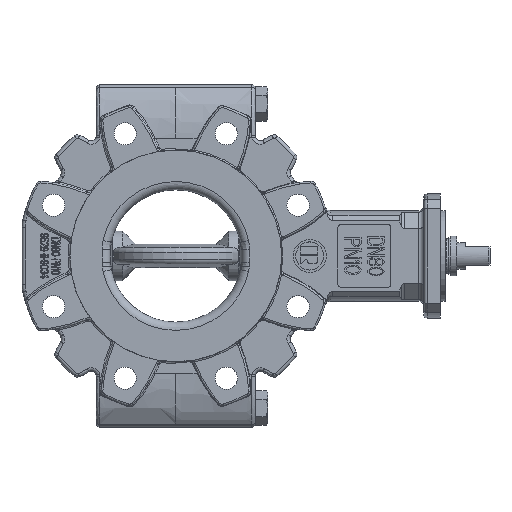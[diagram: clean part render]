
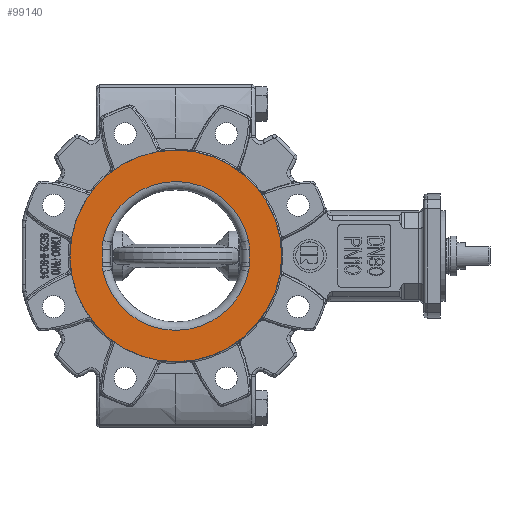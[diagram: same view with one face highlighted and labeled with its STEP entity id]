
A CAD part, top view. The second image highlights one B-rep face of the part: STEP entity #99140.
In plain terms, the highlighted planar face has unit normal (0, 0, 1).
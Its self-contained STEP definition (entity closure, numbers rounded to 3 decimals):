
#29292=CARTESIAN_POINT('',(0.,0.,23.));
#29293=DIRECTION('',(0.,0.,-1.));
#29294=DIRECTION('',(0.,-1.,0.));
#29295=AXIS2_PLACEMENT_3D('',#29292,#29293,#29294);
#29297=CARTESIAN_POINT('',(0.,0.,23.));
#29298=DIRECTION('',(0.,0.,-1.));
#29299=DIRECTION('',(0.,1.,0.));
#29300=AXIS2_PLACEMENT_3D('',#29297,#29298,#29299);
#29302=CARTESIAN_POINT('',(0.,0.,23.));
#29303=DIRECTION('',(0.,0.,1.));
#29304=DIRECTION('',(-0.978,-0.208,0.));
#29305=AXIS2_PLACEMENT_3D('',#29302,#29303,#29304);
#29307=CARTESIAN_POINT('',(0.,0.,23.));
#29308=DIRECTION('',(0.,0.,1.));
#29309=DIRECTION('',(-0.007,-1.,0.));
#29310=AXIS2_PLACEMENT_3D('',#29307,#29308,#29309);
#29312=CARTESIAN_POINT('',(0.,0.,23.));
#29313=DIRECTION('',(0.,0.,1.));
#29314=DIRECTION('',(0.978,0.208,0.));
#29315=AXIS2_PLACEMENT_3D('',#29312,#29313,#29314);
#29317=CARTESIAN_POINT('',(0.,0.,23.));
#29318=DIRECTION('',(0.,0.,1.));
#29319=DIRECTION('',(0.007,1.,0.));
#29320=AXIS2_PLACEMENT_3D('',#29317,#29318,#29319);
#29322=CARTESIAN_POINT('',(-44.015,9.363,
23.));
#29323=CARTESIAN_POINT('',(-44.134,8.805,
23.));
#29324=CARTESIAN_POINT('',(-44.331,7.653,
23.));
#29325=CARTESIAN_POINT('',(-44.503,5.828,
23.));
#29326=CARTESIAN_POINT('',(-44.536,4.52,
23.));
#29327=CARTESIAN_POINT('',(-44.536,3.845,
23.));
#29329=CARTESIAN_POINT('',(-44.536,-3.845,
23.));
#29330=CARTESIAN_POINT('',(-44.536,-4.165,
23.));
#29331=CARTESIAN_POINT('',(-44.529,-4.797,
23.));
#29332=CARTESIAN_POINT('',(-44.492,-5.719,
23.));
#29333=CARTESIAN_POINT('',(-44.449,-6.317,
23.));
#29334=CARTESIAN_POINT('',(-44.423,-6.611,
23.));
#29336=CARTESIAN_POINT('',(-44.423,-6.611,
23.));
#29337=CARTESIAN_POINT('',(-44.394,-6.935,
23.));
#29338=CARTESIAN_POINT('',(-44.325,-7.572,
23.));
#29339=CARTESIAN_POINT('',(-44.189,-8.49,
23.));
#29340=CARTESIAN_POINT('',(-44.076,-9.077,
23.));
#29341=CARTESIAN_POINT('',(-44.015,-9.364,
23.));
#29369=DIRECTION('',(0.,1.,0.));
#29370=VECTOR('',#29369,7.689);
#29371=CARTESIAN_POINT('',(-44.536,-3.845,
23.));
#29372=LINE('',#29371,#29370);
#30548=DIRECTION('',(0.,-1.,0.));
#30549=VECTOR('',#30548,7.689);
#30550=CARTESIAN_POINT('',(44.536,3.845,23.));
#30551=LINE('',#30550,#30549);
#30557=CARTESIAN_POINT('',(44.536,-3.845,
23.));
#30558=CARTESIAN_POINT('',(44.536,-4.158,
23.));
#30559=CARTESIAN_POINT('',(44.529,-4.782,
23.));
#30560=CARTESIAN_POINT('',(44.493,-5.702,
23.));
#30561=CARTESIAN_POINT('',(44.45,-6.31,
23.));
#30562=CARTESIAN_POINT('',(44.423,-6.611,
23.));
#30569=CARTESIAN_POINT('',(44.423,-6.611,
23.));
#30570=CARTESIAN_POINT('',(44.394,-6.935,
23.));
#30571=CARTESIAN_POINT('',(44.325,-7.571,
23.));
#30572=CARTESIAN_POINT('',(44.189,-8.49,
23.));
#30573=CARTESIAN_POINT('',(44.076,-9.077,
23.));
#30574=CARTESIAN_POINT('',(44.015,-9.364,
23.));
#30602=CARTESIAN_POINT('',(44.015,9.363,23.));
#30603=CARTESIAN_POINT('',(44.139,8.783,23.));
#30604=CARTESIAN_POINT('',(44.339,7.6,23.));
#30605=CARTESIAN_POINT('',(44.505,5.779,23.));
#30606=CARTESIAN_POINT('',(44.536,4.499,23.));
#30607=CARTESIAN_POINT('',(44.536,3.845,23.));
#43333=CARTESIAN_POINT('',(0.,64.,23.));
#43334=VERTEX_POINT('',#43333);
#43335=CARTESIAN_POINT('',(0.,-64.,23.));
#43336=VERTEX_POINT('',#43335);
#52946=CARTESIAN_POINT('',(-0.302,-44.999,23.));
#52947=CARTESIAN_POINT('',(44.015,-9.363,23.));
#52948=VERTEX_POINT('',#52946);
#52949=VERTEX_POINT('',#52947);
#52950=CARTESIAN_POINT('',(-44.015,-9.363,23.));
#52951=VERTEX_POINT('',#52950);
#52952=VERTEX_POINT('',#30569);
#52953=VERTEX_POINT('',#30557);
#52954=CARTESIAN_POINT('',(44.536,3.845,23.));
#52955=VERTEX_POINT('',#52954);
#52956=VERTEX_POINT('',#30602);
#52957=CARTESIAN_POINT('',(0.302,44.999,23.));
#52958=CARTESIAN_POINT('',(-44.015,9.363,23.));
#52959=VERTEX_POINT('',#52957);
#52960=VERTEX_POINT('',#52958);
#52961=VERTEX_POINT('',#29327);
#52962=CARTESIAN_POINT('',(-44.536,-3.845,
23.));
#52963=VERTEX_POINT('',#52962);
#52964=VERTEX_POINT('',#29334);
#99105=CARTESIAN_POINT('',(0.,0.,23.));
#99106=DIRECTION('',(0.,0.,1.));
#99107=DIRECTION('',(0.,1.,0.));
#99108=AXIS2_PLACEMENT_3D('',#99105,#99106,#99107);
#99109=PLANE('',#99108);
#99110=ORIENTED_EDGE('',*,*,#58899,.T.);
#99111=ORIENTED_EDGE('',*,*,#59005,.T.);
#99112=EDGE_LOOP('',(#99110,#99111));
#99113=FACE_OUTER_BOUND('',#99112,.F.);
#99115=ORIENTED_EDGE('',*,*,#99114,.T.);
#99117=ORIENTED_EDGE('',*,*,#99116,.T.);
#99119=ORIENTED_EDGE('',*,*,#99118,.F.);
#99121=ORIENTED_EDGE('',*,*,#99120,.F.);
#99123=ORIENTED_EDGE('',*,*,#99122,.F.);
#99125=ORIENTED_EDGE('',*,*,#99124,.F.);
#99127=ORIENTED_EDGE('',*,*,#99126,.T.);
#99129=ORIENTED_EDGE('',*,*,#99128,.T.);
#99131=ORIENTED_EDGE('',*,*,#99130,.T.);
#99133=ORIENTED_EDGE('',*,*,#99132,.F.);
#99135=ORIENTED_EDGE('',*,*,#99134,.T.);
#99137=ORIENTED_EDGE('',*,*,#99136,.T.);
#99138=EDGE_LOOP('',(#99115,#99117,#99119,#99121,#99123,#99125,#99127,#99129,
#99131,#99133,#99135,#99137));
#99139=FACE_BOUND('',#99138,.F.);
#99140=ADVANCED_FACE('',(#99113,#99139),#99109,.T.);
#29296=CIRCLE('',#29295,64.);
#29301=CIRCLE('',#29300,64.);
#29306=CIRCLE('',#29305,45.);
#29311=CIRCLE('',#29310,45.);
#29316=CIRCLE('',#29315,45.);
#29321=CIRCLE('',#29320,45.);
#29328=B_SPLINE_CURVE_WITH_KNOTS('',3,(#29322,#29323,#29324,#29325,#29326,
#29327),.UNSPECIFIED.,.F.,.F.,(4,1,1,4),(0.,0.333,
0.667,1.),.UNSPECIFIED.);
#29335=B_SPLINE_CURVE_WITH_KNOTS('',3,(#29329,#29330,#29331,#29332,#29333,
#29334),.UNSPECIFIED.,.F.,.F.,(4,1,1,4),(0.,0.333,
0.667,1.),.UNSPECIFIED.);
#29342=B_SPLINE_CURVE_WITH_KNOTS('',3,(#29336,#29337,#29338,#29339,#29340,
#29341),.UNSPECIFIED.,.F.,.F.,(4,1,1,4),(0.,0.333,
0.667,1.),.UNSPECIFIED.);
#30563=B_SPLINE_CURVE_WITH_KNOTS('',3,(#30557,#30558,#30559,#30560,#30561,
#30562),.UNSPECIFIED.,.F.,.F.,(4,1,1,4),(0.,0.333,
0.667,1.),.UNSPECIFIED.);
#30575=B_SPLINE_CURVE_WITH_KNOTS('',3,(#30569,#30570,#30571,#30572,#30573,
#30574),.UNSPECIFIED.,.F.,.F.,(4,1,1,4),(0.,0.333,
0.667,1.),.UNSPECIFIED.);
#30608=B_SPLINE_CURVE_WITH_KNOTS('',3,(#30602,#30603,#30604,#30605,#30606,
#30607),.UNSPECIFIED.,.F.,.F.,(4,1,1,4),(0.,0.333,
0.667,1.),.UNSPECIFIED.);
#58899=EDGE_CURVE('',#43336,#43334,#29296,.T.);
#59005=EDGE_CURVE('',#43334,#43336,#29301,.T.);
#99114=EDGE_CURVE('',#52951,#52948,#29306,.T.);
#99116=EDGE_CURVE('',#52948,#52949,#29311,.T.);
#99118=EDGE_CURVE('',#52952,#52949,#30575,.T.);
#99120=EDGE_CURVE('',#52953,#52952,#30563,.T.);
#99122=EDGE_CURVE('',#52955,#52953,#30551,.T.);
#99124=EDGE_CURVE('',#52956,#52955,#30608,.T.);
#99126=EDGE_CURVE('',#52956,#52959,#29316,.T.);
#99128=EDGE_CURVE('',#52959,#52960,#29321,.T.);
#99130=EDGE_CURVE('',#52960,#52961,#29328,.T.);
#99132=EDGE_CURVE('',#52963,#52961,#29372,.T.);
#99134=EDGE_CURVE('',#52963,#52964,#29335,.T.);
#99136=EDGE_CURVE('',#52964,#52951,#29342,.T.);
